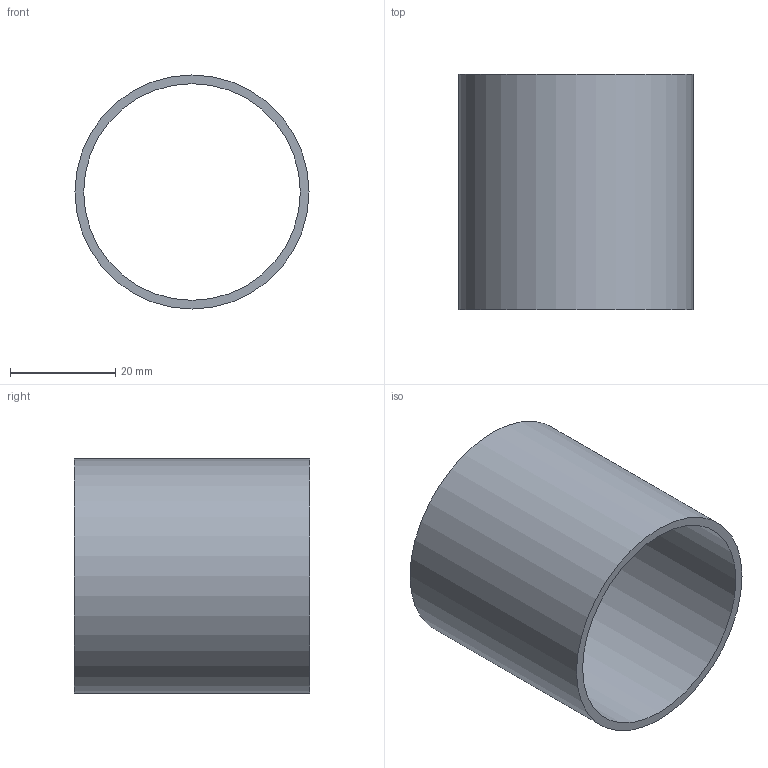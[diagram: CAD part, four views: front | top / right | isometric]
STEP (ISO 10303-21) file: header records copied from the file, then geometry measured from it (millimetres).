
FILE_DESCRIPTION(/* description */ (''),/* implementation_level */ '2;1');
FILE_NAME(/* name */ '4130-RND-175-065-IMPERIAL.step',/* time_stamp */ '2025-08-05T15:01:02-07:00',/* author */ (''),/* organization */ (''),/* preprocessor_version */ 'ST-DEVELOPER v20.1',/* originating_system */ 'Autodesk Translation Framework v14.10.0.0',/* authorisation */ '');
FILE_SCHEMA (('AUTOMOTIVE_DESIGN { 1 0 10303 214 3 1 1 }'));
Length unit declared in the file: inch
Products named in the file (1): (Unsaved)
Bounding box: 44.45 x 44.7 x 44.45 mm (x, y, z)
Volume: 9923.8 mm3; surface area: 12465.5 mm2
Topology: 1 solids, 1 shells, 4 faces, 6 edges, 4 vertices
Faces by surface type: cylinder 2, plane 2
Full cylindrical faces by diameter (mm): 41.148 x1, 44.45 x1
Entity records: 133 total; most frequent: DIRECTION 20, CARTESIAN_POINT 15, ORIENTED_EDGE 12, AXIS2_PLACEMENT_3D 9, EDGE_LOOP 6, EDGE_CURVE 6, FACE_OUTER_BOUND 4, CIRCLE 4
